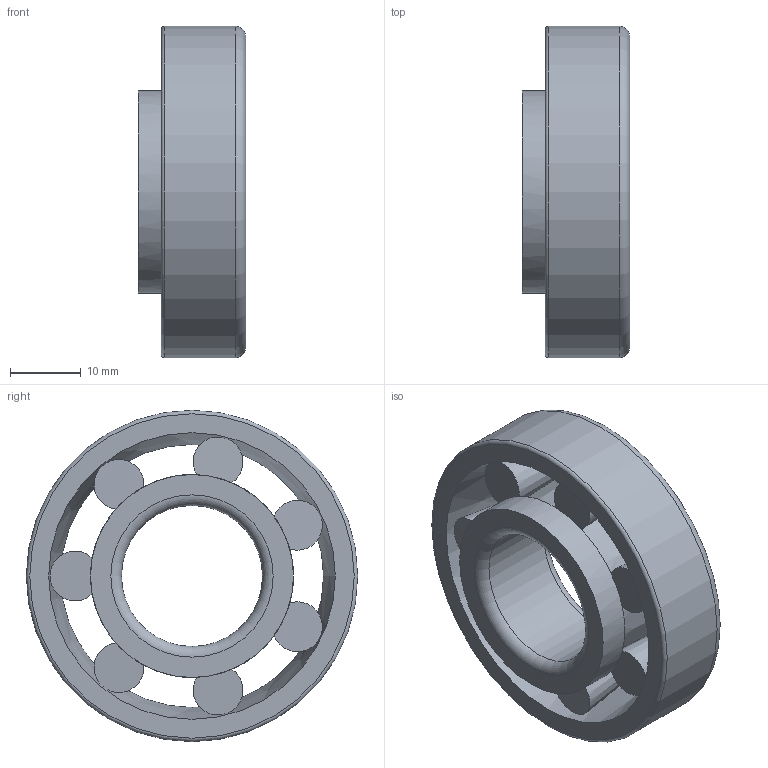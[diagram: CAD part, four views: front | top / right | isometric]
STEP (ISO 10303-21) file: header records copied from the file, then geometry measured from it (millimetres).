
FILE_DESCRIPTION(/* description */ ('테이퍼 롤러 베어링'),/* implementation_level */ '2;1');
FILE_NAME(/* name */ '',/* time_stamp */ '2026-01-09T11:09:03+09:00',/* author */ ('jhkim'),/* organization */ (''),/* preprocessor_version */ 'ST-DEVELOPER v20.1',/* originating_system */ 'Autodesk Inventor 2026',/* authorisation */ '');
FILE_SCHEMA (('AUTOMOTIVE_DESIGN { 1 0 10303 214 3 1 1 }'));
Length unit declared in the file: millimetre
Products named in the file (1): 테이퍼 롤러 베어링 
30204K
Bounding box: 15.25 x 47 x 47 mm (x, y, z)
Volume: 12153.5 mm3; surface area: 8653.5 mm2
Topology: 2 solids, 2 shells, 62 faces, 146 edges, 81 vertices
Faces by surface type: cone 36, plane 18, cylinder 4, torus 4
Full cylindrical faces by diameter (mm): 20 x1, 27.48 x1, 28.783 x1, 47 x1
Entity records: 1960 total; most frequent: CARTESIAN_POINT 437, DIRECTION 336, ORIENTED_EDGE 306, EDGE_CURVE 153, AXIS2_PLACEMENT_3D 148, VERTEX_POINT 81, CIRCLE 78, EDGE_LOOP 66
